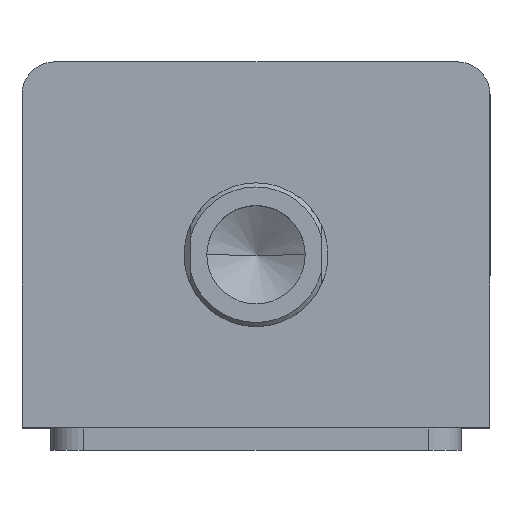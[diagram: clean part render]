
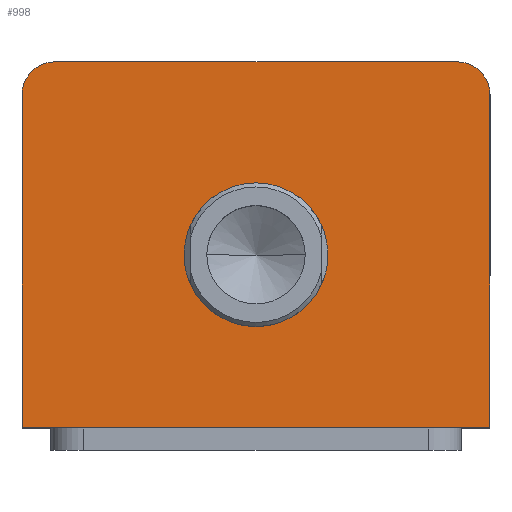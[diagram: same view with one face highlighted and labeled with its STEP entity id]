
A CAD part, top view. The second image highlights one B-rep face of the part: STEP entity #998.
In plain terms, the highlighted planar face has unit normal (0, 0, 1).
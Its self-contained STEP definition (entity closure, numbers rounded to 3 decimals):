
#29 = EDGE_CURVE ( 'NONE', #2313, #2217, #1234, .T. ) ;
#33 = EDGE_CURVE ( 'NONE', #2217, #2326, #1228, .T. ) ;
#68 = ORIENTED_EDGE ( 'NONE', *, *, #99, .F. ) ;
#69 = ORIENTED_EDGE ( 'NONE', *, *, #96, .F. ) ;
#70 = ORIENTED_EDGE ( 'NONE', *, *, #1718, .T. ) ;
#71 = ORIENTED_EDGE ( 'NONE', *, *, #29, .T. ) ;
#72 = ORIENTED_EDGE ( 'NONE', *, *, #33, .T. ) ;
#73 = ORIENTED_EDGE ( 'NONE', *, *, #3472, .T. ) ;
#74 = ORIENTED_EDGE ( 'NONE', *, *, #505, .T. ) ;
#75 = ORIENTED_EDGE ( 'NONE', *, *, #513, .T. ) ;
#81 = FACE_BOUND ( 'NONE', #1264, .T. ) ;
#96 = EDGE_CURVE ( 'NONE', #2288, #2320, #1204, .T. ) ;
#99 = EDGE_CURVE ( 'NONE', #2320, #2288, #1199, .T. ) ;
#203 = AXIS2_PLACEMENT_3D ( 'NONE', #691, #705, #688 ) ;
#348 = DIRECTION ( 'NONE',  ( 1., 0., 0. ) ) ;
#349 = DIRECTION ( 'NONE',  ( 0., 0., 1. ) ) ;
#357 = PLANE ( 'NONE',  #2410 ) ;
#363 = CARTESIAN_POINT ( 'NONE',  ( 0., 0., 142. ) ) ;
#497 = AXIS2_PLACEMENT_3D ( 'NONE', #835, #832, #831 ) ;
#505 = EDGE_CURVE ( 'NONE', #2321, #2306, #1159, .T. ) ;
#513 = EDGE_CURVE ( 'NONE', #2306, #2599, #1153, .T. ) ;
#523 = FACE_OUTER_BOUND ( 'NONE', #1277, .T. ) ;
#525 = AXIS2_PLACEMENT_3D ( 'NONE', #802, #801, #798 ) ;
#688 = DIRECTION ( 'NONE',  ( 1., 0., 0. ) ) ;
#691 = CARTESIAN_POINT ( 'NONE',  ( 0., -2.5, 142. ) ) ;
#705 = DIRECTION ( 'NONE',  ( 0., 0., 1. ) ) ;
#712 = DIRECTION ( 'NONE',  ( 1., 0., 0. ) ) ;
#715 = DIRECTION ( 'NONE',  ( 0., 0., 1. ) ) ;
#718 = CARTESIAN_POINT ( 'NONE',  ( 0., -2.5, 142. ) ) ;
#798 = DIRECTION ( 'NONE',  ( 1., 0., 0. ) ) ;
#801 = DIRECTION ( 'NONE',  ( 0., 0., 1. ) ) ;
#802 = CARTESIAN_POINT ( 'NONE',  ( 49., 36.5, 142. ) ) ;
#813 = CARTESIAN_POINT ( 'NONE',  ( -57., 44.5, 142. ) ) ;
#821 = DIRECTION ( 'NONE',  ( 0., -1., 0. ) ) ;
#831 = DIRECTION ( 'NONE',  ( 1., 0., 0. ) ) ;
#832 = DIRECTION ( 'NONE',  ( 0., 0., 1. ) ) ;
#835 = CARTESIAN_POINT ( 'NONE',  ( -49., 36.5, 142. ) ) ;
#836 = DIRECTION ( 'NONE',  ( 0., 1., 0. ) ) ;
#837 = CARTESIAN_POINT ( 'NONE',  ( 57., 44.5, 142. ) ) ;
#998 = ADVANCED_FACE ( 'NONE', ( #81, #523 ), #357, .T. ) ;
#1153 = CIRCLE ( 'NONE', #525, 8. ) ;
#1156 = VECTOR ( 'NONE', #836, 1000. ) ;
#1159 = LINE ( 'NONE', #837, #1156 ) ;
#1199 = CIRCLE ( 'NONE', #203, 17.5 ) ;
#1204 = CIRCLE ( 'NONE', #2082, 17.5 ) ;
#1225 = VECTOR ( 'NONE', #821, 1000. ) ;
#1228 = LINE ( 'NONE', #813, #1225 ) ;
#1234 = CIRCLE ( 'NONE', #497, 8. ) ;
#1264 = EDGE_LOOP ( 'NONE', ( #68, #69 ) ) ;
#1277 = EDGE_LOOP ( 'NONE', ( #70, #71, #72, #73, #74, #75 ) ) ;
#1718 = EDGE_CURVE ( 'NONE', #2599, #2313, #1802, .T. ) ;
#1802 = LINE ( 'NONE', #2773, #1805 ) ;
#1805 = VECTOR ( 'NONE', #2761, 1000. ) ;
#1890 = LINE ( 'NONE', #3132, #1893 ) ;
#1893 = VECTOR ( 'NONE', #3131, 1000. ) ;
#2082 = AXIS2_PLACEMENT_3D ( 'NONE', #718, #715, #712 ) ;
#2217 = VERTEX_POINT ( 'NONE', #2909 ) ;
#2288 = VERTEX_POINT ( 'NONE', #2821 ) ;
#2306 = VERTEX_POINT ( 'NONE', #2797 ) ;
#2313 = VERTEX_POINT ( 'NONE', #2784 ) ;
#2320 = VERTEX_POINT ( 'NONE', #2775 ) ;
#2321 = VERTEX_POINT ( 'NONE', #2774 ) ;
#2326 = VERTEX_POINT ( 'NONE', #2766 ) ;
#2410 = AXIS2_PLACEMENT_3D ( 'NONE', #363, #349, #348 ) ;
#2599 = VERTEX_POINT ( 'NONE', #2709 ) ;
#2709 = CARTESIAN_POINT ( 'NONE',  ( 49., 44.5, 142. ) ) ;
#2761 = DIRECTION ( 'NONE',  ( -1., 0., 0. ) ) ;
#2766 = CARTESIAN_POINT ( 'NONE',  ( -57., -44.5, 142. ) ) ;
#2773 = CARTESIAN_POINT ( 'NONE',  ( -57., 44.5, 142. ) ) ;
#2774 = CARTESIAN_POINT ( 'NONE',  ( 57., -44.5, 142. ) ) ;
#2775 = CARTESIAN_POINT ( 'NONE',  ( 17.5, -2.5, 142. ) ) ;
#2784 = CARTESIAN_POINT ( 'NONE',  ( -49., 44.5, 142. ) ) ;
#2797 = CARTESIAN_POINT ( 'NONE',  ( 57., 36.5, 142. ) ) ;
#2821 = CARTESIAN_POINT ( 'NONE',  ( -17.5, -2.5, 142. ) ) ;
#2909 = CARTESIAN_POINT ( 'NONE',  ( -57., 36.5, 142. ) ) ;
#3131 = DIRECTION ( 'NONE',  ( 1., 0., 0. ) ) ;
#3132 = CARTESIAN_POINT ( 'NONE',  ( -57., -44.5, 142. ) ) ;
#3472 = EDGE_CURVE ( 'NONE', #2326, #2321, #1890, .T. ) ;
